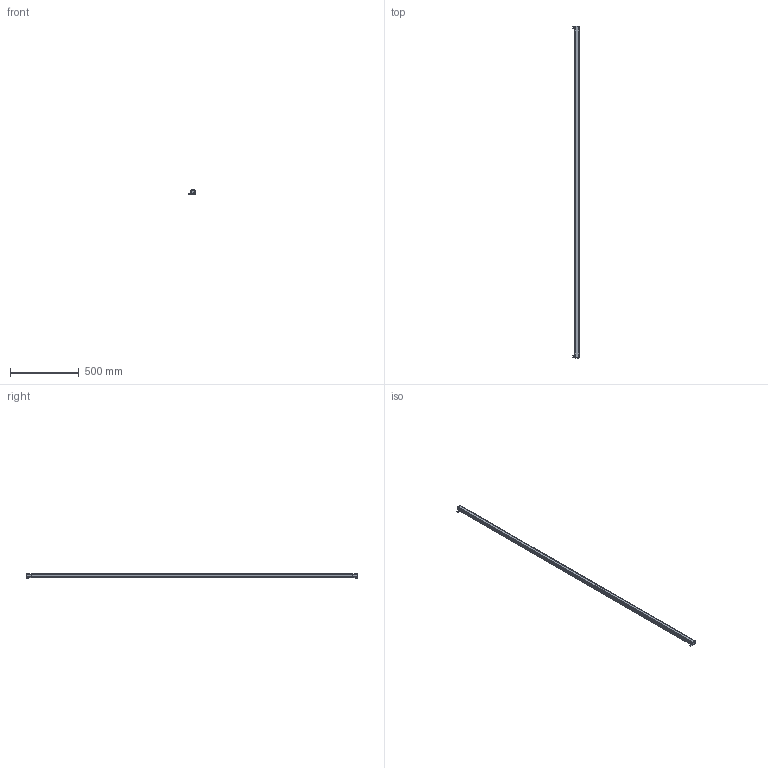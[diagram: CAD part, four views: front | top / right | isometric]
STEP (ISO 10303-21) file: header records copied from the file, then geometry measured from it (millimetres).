
FILE_DESCRIPTION(/* description */ (''),/* implementation_level */ '2;1');
FILE_NAME(/* name */ '6040(30X30).stp',/* time_stamp */ '2023-10-23T14:28:25+08:00',/* author */ (''),/* organization */ (''),/* preprocessor_version */ 'ST-DEVELOPER v16.7',/* originating_system */ 'SIEMENS PLM Software NX 12.0',/* authorisation */ '');
FILE_SCHEMA (('AP203_CONFIGURATION_CONTROLLED_3D_DESIGN_OF_MECHANICAL_PARTS_AND_ASSEMBLIES_MIM_LF { 1 0 10303 403 2 1 2}'));
Length unit declared in the file: millimetre
Products named in the file (1): 3840_30X30__stp
Bounding box: 44.89 x 2408.4 x 31.39 mm (x, y, z)
Volume: 745699.1 mm3; surface area: 787867.5 mm2
Topology: 6 solids, 6 shells, 441 faces, 1311 edges, 871 vertices
Faces by surface type: plane 256, cylinder 132, cone 32, bspline 14, extrusion 7
Full cylindrical faces by diameter (mm): 1.5 x2, 3.2 x8, 3.5 x8
Entity records: 15730 total; most frequent: CARTESIAN_POINT 3886, ORIENTED_EDGE 2528, DIRECTION 2314, EDGE_CURVE 1264, VECTOR 856, VERTEX_POINT 855, LINE 849, AXIS2_PLACEMENT_3D 729
